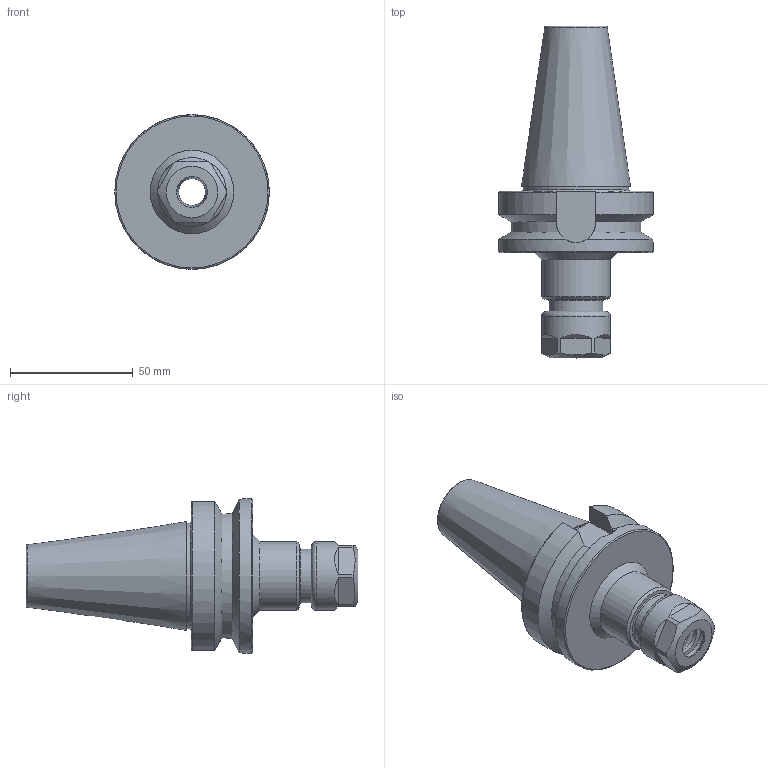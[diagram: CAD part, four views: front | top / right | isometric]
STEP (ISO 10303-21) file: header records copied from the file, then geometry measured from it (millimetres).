
FILE_DESCRIPTION(/* description */ (''),/* implementation_level */ '2;1');
FILE_NAME(/* name */ 'BT40-ER16-70.stp',/* time_stamp */ '2025-10-03T15:59:46+03:00',/* author */ ('User'),/* organization */ (''),/* preprocessor_version */ 'ST-DEVELOPER v19.2',/* originating_system */ 'Autodesk Inventor 2024',/* authorisation */ '');
FILE_SCHEMA (('AUTOMOTIVE_DESIGN { 1 0 10303 214 3 1 1 }'));
Length unit declared in the file: millimetre
Products named in the file (3): BT40-ER16-150; BT40-FMB60-75; гайка ER16
Assembly tree (2 placements, depth 2):
  BT40-ER16-150
    BT40-FMB60-75
    гайка ER16
Bounding box: 63 x 135.4 x 63 mm (x, y, z)
Volume: 140965.4 mm3; surface area: 29522.2 mm2
Topology: 2 solids, 2 shells, 69 faces, 166 edges, 110 vertices
Faces by surface type: plane 31, cylinder 18, cone 13, torus 7
Full cylindrical faces by diameter (mm): 10.941 x1, 12.7 x2, 14.2 x1, 17 x2, 20.376 x1, 22 x1, 28 x2, 43 x1, 63 x1
Entity records: 2238 total; most frequent: CARTESIAN_POINT 468, DIRECTION 365, ORIENTED_EDGE 332, EDGE_CURVE 166, AXIS2_PLACEMENT_3D 152, VERTEX_POINT 110, EDGE_LOOP 82, CIRCLE 71
